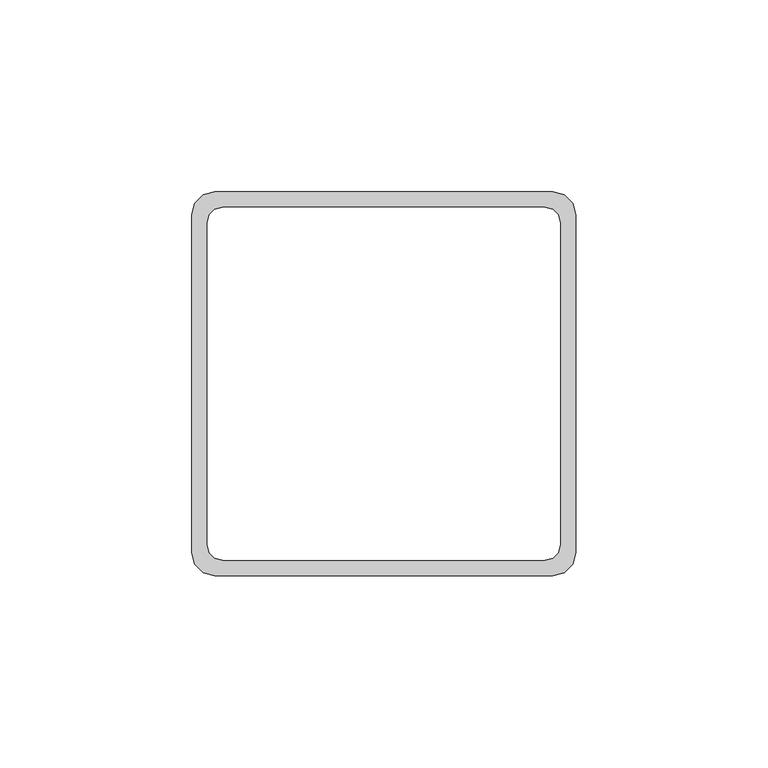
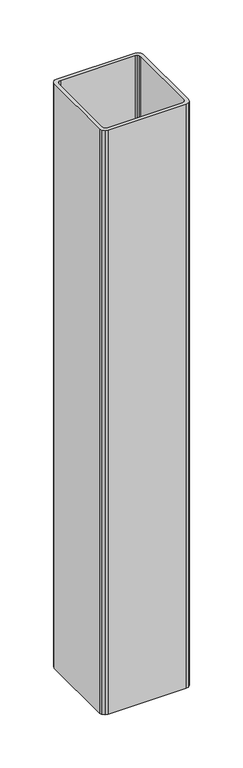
"""IFC4 building model written with IfcOpenShell, lengths in millimetres: beam geometry, Lisse acrot?re : Lisse acrot?re."""

from ifc_helpers import new_model, si_unit, frame, origin, place, context, project, spatial, polyline, outline, extrude, source, transform, mapped, element, save


def beam_884fce26(model_context):
    return source(origin(), model_context, "Body", "SweptSolid", [
        extrude(outline(polyline([(-180.0000001, -38461.0), (-179.1961526, -38458.0), (-177.0000001, -38455.8038476), (-174.0000001, -38455.0), (-86.0000001, -38455.0), (-83.0000001, -38455.8038476), (-80.8038477, -38458.0), (-80.0000001, -38461.0), (-80.0000001, -38549.0), (-80.8038477, -38552.0), (-83.0000001, -38554.1961524), (-86.0000001, -38555.0), (-174.0000001, -38555.0), (-177.0000001, -38554.1961524), (-179.1961526, -38552.0), (-180.0000001, -38549.0), (-180.0000001, -38461.0)]), holes=[polyline([(-176.0000001, -38547.0), (-175.4641017, -38549.0), (-174.0000001, -38550.4641016), (-172.0000001, -38551.0), (-88.0000001, -38551.0), (-86.0000001, -38550.4641016), (-84.5358985, -38549.0), (-84.0000001, -38547.0), (-84.0000001, -38463.0), (-84.5358985, -38461.0), (-86.0000001, -38459.5358984), (-88.0000001, -38459.0), (-172.0000001, -38459.0), (-174.0000001, -38459.5358984), (-175.4641017, -38461.0), (-176.0000001, -38463.0), (-176.0000001, -38547.0)])]), frame((0.0, 0.0, 7755.5841583), z_axis=(0.0, 0.0, 1.0), x_axis=(1.0, 0.0, 0.0)), (0.0, 0.0, 1.0), 694.4158417),
    ])


if __name__ == "__main__":
    model = new_model("IFC4")
    model_context = context("Model", 3, world=origin())
    ifc_project = project(units=[si_unit("LENGTHUNIT", "METRE", prefix="MILLI")], contexts=[model_context])
    site = spatial("IfcSite", under=ifc_project)
    building = spatial("IfcBuilding", under=site)
    placement = place(None, origin())
    beam_shape = beam_884fce26(model_context)
    element("IfcBeam", 1, ObjectType="Lisse acrot?re : Lisse acrot?re", at=placement, inside=building, context=model_context, shape_type="MappedRepresentation", body=[
        mapped(beam_shape, transform((0.0, 0.0, 0.0), x_axis=(1.0, 0.0, 0.0), y_axis=(0.0, 1.0, 0.0), z_axis=(0.0, 0.0, 1.0))),
    ])
    save(model, "model.ifc")
